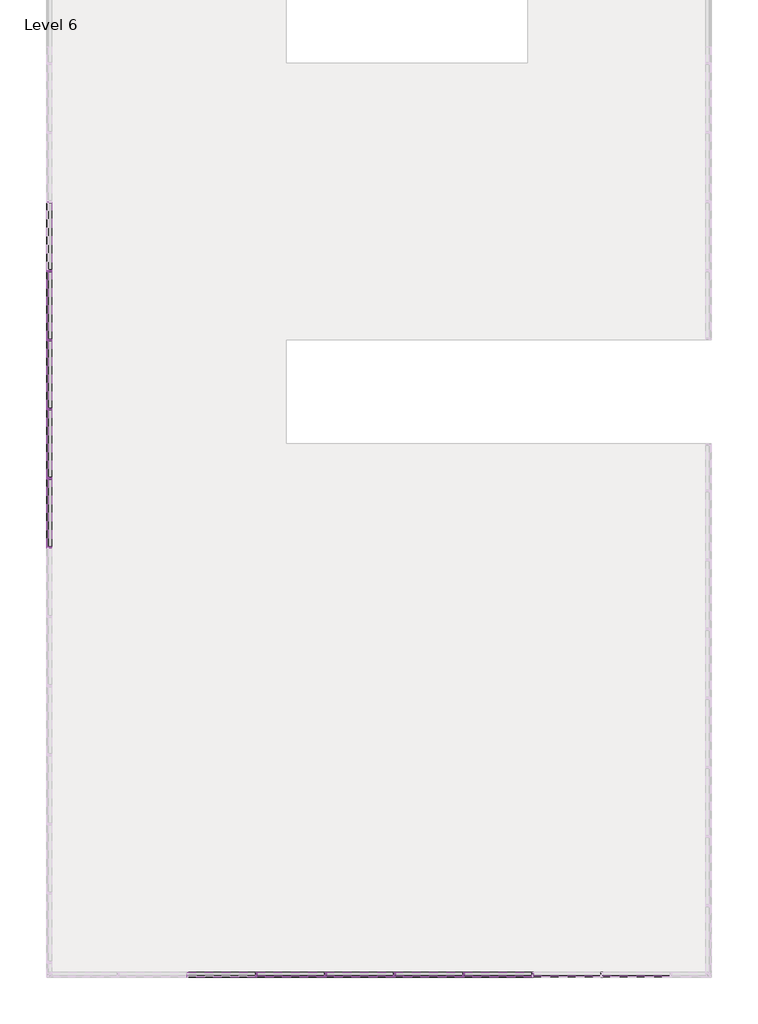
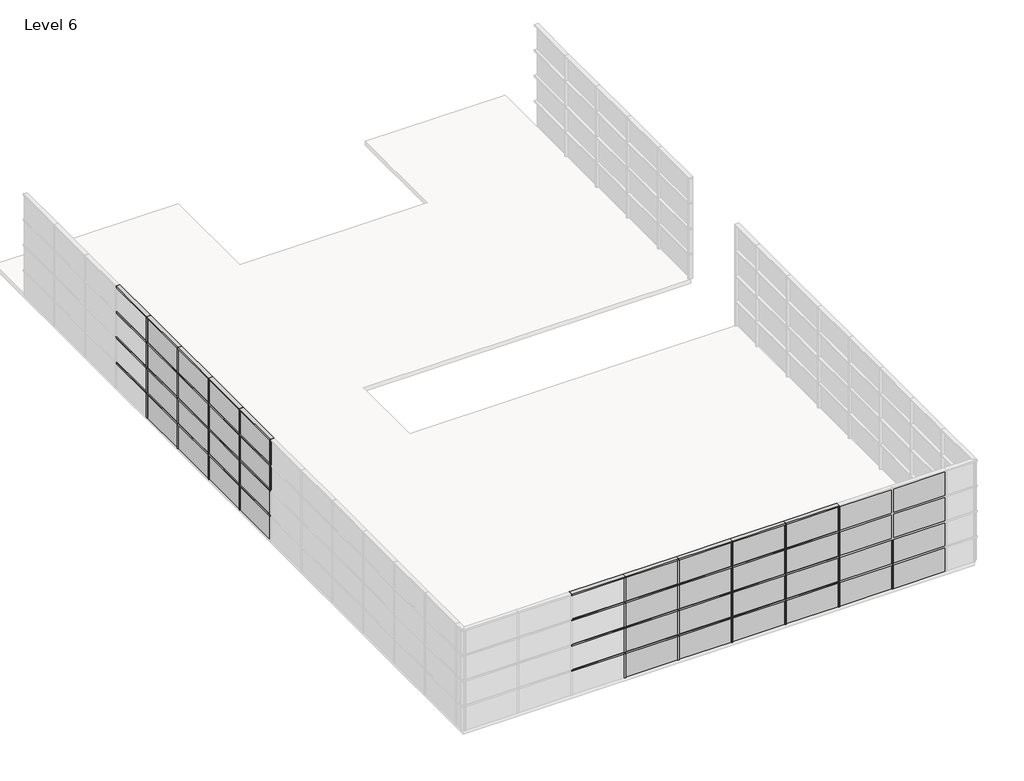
# One storey, part 2 of 5: 80 members, 40 plates.
"""IFC4 building model written with IfcOpenShell, lengths in millimetres."""

from ifc_helpers import new_model, si_unit, origin, place, context, project, spatial, transform, mapped, element, save
from components import rectangular_mullion_50_x_150mm_a053b0ca, rectangular_mullion_50_x_150mm_3a148f0f, system_panel_glazed_08de6f5f

model = new_model("IFC4")

# Units and contexts
model_context = context("Model", 3, world=origin())
ifc_project = project(units=[si_unit("LENGTHUNIT", "METRE", prefix="MILLI")], contexts=[model_context])

# Site, building, storey
site = spatial("IfcSite", under=ifc_project)
building = spatial("IfcBuilding", under=site)
storey = spatial("IfcBuildingStorey", under=building, Name="Level 6", Elevation=20000.0)

# Members
placement = place(None, origin())
rectangular_mullion_50_x_150mm_shape = rectangular_mullion_50_x_150mm_a053b0ca(model_context)
element("IfcMember", 1, ObjectType="Rectangular Mullion : 50 x 150mm", at=placement, inside=storey, context=model_context, shape_type="MappedRepresentation", body=[
    mapped(rectangular_mullion_50_x_150mm_shape, transform((412.826594, -21988.7417365, 20025.0), x_axis=(1.0, 0.0, 0.0), y_axis=(0.0, -1.0, 0.0), z_axis=(0.0, 0.0, -0.9999999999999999))),
])
element("IfcMember", 2, ObjectType="Rectangular Mullion : 50 x 150mm", at=placement, inside=storey, context=model_context, shape_type="MappedRepresentation", body=[
    mapped(rectangular_mullion_50_x_150mm_shape, transform((412.826594, -21988.7417365, 21025.0), x_axis=(1.0, 0.0, 0.0), y_axis=(0.0, -1.0, 0.0), z_axis=(0.0, 0.0, -0.9999999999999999))),
])
element("IfcMember", 3, ObjectType="Rectangular Mullion : 50 x 150mm", at=placement, inside=storey, context=model_context, shape_type="MappedRepresentation", body=[
    mapped(rectangular_mullion_50_x_150mm_shape, transform((412.826594, -21988.7417365, 22025.0), x_axis=(1.0, 0.0, 0.0), y_axis=(0.0, -1.0, 0.0), z_axis=(0.0, 0.0, -0.9999999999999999))),
])
element("IfcMember", 4, ObjectType="Rectangular Mullion : 50 x 150mm", at=placement, inside=storey, context=model_context, shape_type="MappedRepresentation", body=[
    mapped(rectangular_mullion_50_x_150mm_shape, transform((412.826594, -21988.7417365, 23025.0), x_axis=(1.0, 0.0, 0.0), y_axis=(0.0, -1.0, 0.0), z_axis=(0.0, 0.0, -0.9999999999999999))),
])
element("IfcMember", 5, ObjectType="Rectangular Mullion : 50 x 150mm", at=placement, inside=storey, context=model_context, shape_type="MappedRepresentation", body=[
    mapped(rectangular_mullion_50_x_150mm_shape, transform((2412.826594, -21988.7417365, 20025.0), x_axis=(1.0, 0.0, 0.0), y_axis=(0.0, -1.0, 0.0), z_axis=(0.0, 0.0, -0.9999999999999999))),
])
element("IfcMember", 6, ObjectType="Rectangular Mullion : 50 x 150mm", at=placement, inside=storey, context=model_context, shape_type="MappedRepresentation", body=[
    mapped(rectangular_mullion_50_x_150mm_shape, transform((2412.826594, -21988.7417365, 21025.0), x_axis=(1.0, 0.0, 0.0), y_axis=(0.0, -1.0, 0.0), z_axis=(0.0, 0.0, -0.9999999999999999))),
])
element("IfcMember", 7, ObjectType="Rectangular Mullion : 50 x 150mm", at=placement, inside=storey, context=model_context, shape_type="MappedRepresentation", body=[
    mapped(rectangular_mullion_50_x_150mm_shape, transform((2412.826594, -21988.7417365, 22025.0), x_axis=(1.0, 0.0, 0.0), y_axis=(0.0, -1.0, 0.0), z_axis=(0.0, 0.0, -0.9999999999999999))),
])
element("IfcMember", 8, ObjectType="Rectangular Mullion : 50 x 150mm", at=placement, inside=storey, context=model_context, shape_type="MappedRepresentation", body=[
    mapped(rectangular_mullion_50_x_150mm_shape, transform((2412.826594, -21988.7417365, 23025.0), x_axis=(1.0, 0.0, 0.0), y_axis=(0.0, -1.0, 0.0), z_axis=(0.0, 0.0, -0.9999999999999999))),
])
element("IfcMember", 9, ObjectType="Rectangular Mullion : 50 x 150mm", at=placement, inside=storey, context=model_context, shape_type="MappedRepresentation", body=[
    mapped(rectangular_mullion_50_x_150mm_shape, transform((4412.826594, -21988.7417365, 20025.0), x_axis=(1.0, 0.0, 0.0), y_axis=(0.0, -1.0, 0.0), z_axis=(0.0, 0.0, -0.9999999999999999))),
])
element("IfcMember", 10, ObjectType="Rectangular Mullion : 50 x 150mm", at=placement, inside=storey, context=model_context, shape_type="MappedRepresentation", body=[
    mapped(rectangular_mullion_50_x_150mm_shape, transform((4412.826594, -21988.7417365, 21025.0), x_axis=(1.0, 0.0, 0.0), y_axis=(0.0, -1.0, 0.0), z_axis=(0.0, 0.0, -0.9999999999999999))),
])
element("IfcMember", 11, ObjectType="Rectangular Mullion : 50 x 150mm", at=placement, inside=storey, context=model_context, shape_type="MappedRepresentation", body=[
    mapped(rectangular_mullion_50_x_150mm_shape, transform((4412.826594, -21988.7417365, 22025.0), x_axis=(1.0, 0.0, 0.0), y_axis=(0.0, -1.0, 0.0), z_axis=(0.0, 0.0, -0.9999999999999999))),
])
element("IfcMember", 12, ObjectType="Rectangular Mullion : 50 x 150mm", at=placement, inside=storey, context=model_context, shape_type="MappedRepresentation", body=[
    mapped(rectangular_mullion_50_x_150mm_shape, transform((4412.826594, -21988.7417365, 23025.0), x_axis=(1.0, 0.0, 0.0), y_axis=(0.0, -1.0, 0.0), z_axis=(0.0, 0.0, -0.9999999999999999))),
])
element("IfcMember", 13, ObjectType="Rectangular Mullion : 50 x 150mm", at=placement, inside=storey, context=model_context, shape_type="MappedRepresentation", body=[
    mapped(rectangular_mullion_50_x_150mm_shape, transform((6412.826594, -21988.7417365, 20025.0), x_axis=(1.0, 0.0, 0.0), y_axis=(0.0, -1.0, 0.0), z_axis=(0.0, 0.0, -0.9999999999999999))),
])
element("IfcMember", 14, ObjectType="Rectangular Mullion : 50 x 150mm", at=placement, inside=storey, context=model_context, shape_type="MappedRepresentation", body=[
    mapped(rectangular_mullion_50_x_150mm_shape, transform((6412.826594, -21988.7417365, 21025.0), x_axis=(1.0, 0.0, 0.0), y_axis=(0.0, -1.0, 0.0), z_axis=(0.0, 0.0, -0.9999999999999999))),
])
element("IfcMember", 15, ObjectType="Rectangular Mullion : 50 x 150mm", at=placement, inside=storey, context=model_context, shape_type="MappedRepresentation", body=[
    mapped(rectangular_mullion_50_x_150mm_shape, transform((6412.826594, -21988.7417365, 22025.0), x_axis=(1.0, 0.0, 0.0), y_axis=(0.0, -1.0, 0.0), z_axis=(0.0, 0.0, -0.9999999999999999))),
])
element("IfcMember", 16, ObjectType="Rectangular Mullion : 50 x 150mm", at=placement, inside=storey, context=model_context, shape_type="MappedRepresentation", body=[
    mapped(rectangular_mullion_50_x_150mm_shape, transform((6412.826594, -21988.7417365, 23025.0), x_axis=(1.0, 0.0, 0.0), y_axis=(0.0, -1.0, 0.0), z_axis=(0.0, 0.0, -0.9999999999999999))),
])
element("IfcMember", 17, ObjectType="Rectangular Mullion : 50 x 150mm", at=placement, inside=storey, context=model_context, shape_type="MappedRepresentation", body=[
    mapped(rectangular_mullion_50_x_150mm_shape, transform((8412.826594, -21988.7417365, 20025.0), x_axis=(1.0, 0.0, 0.0), y_axis=(0.0, -1.0, 0.0), z_axis=(0.0, 0.0, -0.9999999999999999))),
])
element("IfcMember", 18, ObjectType="Rectangular Mullion : 50 x 150mm", at=placement, inside=storey, context=model_context, shape_type="MappedRepresentation", body=[
    mapped(rectangular_mullion_50_x_150mm_shape, transform((8412.826594, -21988.7417365, 21025.0), x_axis=(1.0, 0.0, 0.0), y_axis=(0.0, -1.0, 0.0), z_axis=(0.0, 0.0, -0.9999999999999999))),
])
element("IfcMember", 19, ObjectType="Rectangular Mullion : 50 x 150mm", at=placement, inside=storey, context=model_context, shape_type="MappedRepresentation", body=[
    mapped(rectangular_mullion_50_x_150mm_shape, transform((8412.826594, -21988.7417365, 22025.0), x_axis=(1.0, 0.0, 0.0), y_axis=(0.0, -1.0, 0.0), z_axis=(0.0, 0.0, -0.9999999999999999))),
])
element("IfcMember", 20, ObjectType="Rectangular Mullion : 50 x 150mm", at=placement, inside=storey, context=model_context, shape_type="MappedRepresentation", body=[
    mapped(rectangular_mullion_50_x_150mm_shape, transform((8412.826594, -21988.7417365, 23025.0), x_axis=(1.0, 0.0, 0.0), y_axis=(0.0, -1.0, 0.0), z_axis=(0.0, 0.0, -0.9999999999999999))),
])
element("IfcMember", 21, ObjectType="Rectangular Mullion : 50 x 150mm", at=placement, inside=storey, context=model_context, shape_type="MappedRepresentation", body=[
    mapped(rectangular_mullion_50_x_150mm_shape, transform((10412.826594, -21988.7417365, 20025.0), x_axis=(1.0, 0.0, 0.0), y_axis=(0.0, -1.0, 0.0), z_axis=(0.0, 0.0, -0.9999999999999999))),
])
element("IfcMember", 22, ObjectType="Rectangular Mullion : 50 x 150mm", at=placement, inside=storey, context=model_context, shape_type="MappedRepresentation", body=[
    mapped(rectangular_mullion_50_x_150mm_shape, transform((10412.826594, -21988.7417365, 21025.0), x_axis=(1.0, 0.0, 0.0), y_axis=(0.0, -1.0, 0.0), z_axis=(0.0, 0.0, -0.9999999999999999))),
])
element("IfcMember", 23, ObjectType="Rectangular Mullion : 50 x 150mm", at=placement, inside=storey, context=model_context, shape_type="MappedRepresentation", body=[
    mapped(rectangular_mullion_50_x_150mm_shape, transform((-5587.173406, -1624.0160434, 20025.0), x_axis=(0.0, -1.0, 0.0), y_axis=(-1.0, 0.0, 0.0), z_axis=(0.0, 0.0, -0.9999999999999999))),
])
element("IfcMember", 24, ObjectType="Rectangular Mullion : 50 x 150mm", at=placement, inside=storey, context=model_context, shape_type="MappedRepresentation", body=[
    mapped(rectangular_mullion_50_x_150mm_shape, transform((-5587.173406, -1624.0160434, 21025.0), x_axis=(0.0, -1.0, 0.0), y_axis=(-1.0, 0.0, 0.0), z_axis=(0.0, 0.0, -0.9999999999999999))),
])
element("IfcMember", 25, ObjectType="Rectangular Mullion : 50 x 150mm", at=placement, inside=storey, context=model_context, shape_type="MappedRepresentation", body=[
    mapped(rectangular_mullion_50_x_150mm_shape, transform((-5587.173406, -1624.0160434, 22025.0), x_axis=(0.0, -1.0, 0.0), y_axis=(-1.0, 0.0, 0.0), z_axis=(0.0, 0.0, -0.9999999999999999))),
])
element("IfcMember", 26, ObjectType="Rectangular Mullion : 50 x 150mm", at=placement, inside=storey, context=model_context, shape_type="MappedRepresentation", body=[
    mapped(rectangular_mullion_50_x_150mm_shape, transform((-5587.173406, -1624.0160434, 23025.0), x_axis=(0.0, -1.0, 0.0), y_axis=(-1.0, 0.0, 0.0), z_axis=(0.0, 0.0, -0.9999999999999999))),
])
element("IfcMember", 27, ObjectType="Rectangular Mullion : 50 x 150mm", at=placement, inside=storey, context=model_context, shape_type="MappedRepresentation", body=[
    mapped(rectangular_mullion_50_x_150mm_shape, transform((-5587.173406, -3624.0160434, 20025.0), x_axis=(0.0, -1.0, 0.0), y_axis=(-1.0, 0.0, 0.0), z_axis=(0.0, 0.0, -0.9999999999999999))),
])
element("IfcMember", 28, ObjectType="Rectangular Mullion : 50 x 150mm", at=placement, inside=storey, context=model_context, shape_type="MappedRepresentation", body=[
    mapped(rectangular_mullion_50_x_150mm_shape, transform((-5587.173406, -3624.0160434, 21025.0), x_axis=(0.0, -1.0, 0.0), y_axis=(-1.0, 0.0, 0.0), z_axis=(0.0, 0.0, -0.9999999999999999))),
])
element("IfcMember", 29, ObjectType="Rectangular Mullion : 50 x 150mm", at=placement, inside=storey, context=model_context, shape_type="MappedRepresentation", body=[
    mapped(rectangular_mullion_50_x_150mm_shape, transform((-5587.173406, -3624.0160434, 22025.0), x_axis=(0.0, -1.0, 0.0), y_axis=(-1.0, 0.0, 0.0), z_axis=(0.0, 0.0, -0.9999999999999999))),
])
element("IfcMember", 30, ObjectType="Rectangular Mullion : 50 x 150mm", at=placement, inside=storey, context=model_context, shape_type="MappedRepresentation", body=[
    mapped(rectangular_mullion_50_x_150mm_shape, transform((-5587.173406, -3624.0160434, 23025.0), x_axis=(0.0, -1.0, 0.0), y_axis=(-1.0, 0.0, 0.0), z_axis=(0.0, 0.0, -0.9999999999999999))),
])
element("IfcMember", 31, ObjectType="Rectangular Mullion : 50 x 150mm", at=placement, inside=storey, context=model_context, shape_type="MappedRepresentation", body=[
    mapped(rectangular_mullion_50_x_150mm_shape, transform((-5587.173406, -5624.0160434, 20025.0), x_axis=(0.0, -1.0, 0.0), y_axis=(-1.0, 0.0, 0.0), z_axis=(0.0, 0.0, -0.9999999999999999))),
])
element("IfcMember", 32, ObjectType="Rectangular Mullion : 50 x 150mm", at=placement, inside=storey, context=model_context, shape_type="MappedRepresentation", body=[
    mapped(rectangular_mullion_50_x_150mm_shape, transform((-5587.173406, -5624.0160434, 21025.0), x_axis=(0.0, -1.0, 0.0), y_axis=(-1.0, 0.0, 0.0), z_axis=(0.0, 0.0, -0.9999999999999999))),
])
element("IfcMember", 33, ObjectType="Rectangular Mullion : 50 x 150mm", at=placement, inside=storey, context=model_context, shape_type="MappedRepresentation", body=[
    mapped(rectangular_mullion_50_x_150mm_shape, transform((-5587.173406, -5624.0160434, 22025.0), x_axis=(0.0, -1.0, 0.0), y_axis=(-1.0, 0.0, 0.0), z_axis=(0.0, 0.0, -0.9999999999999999))),
])
element("IfcMember", 34, ObjectType="Rectangular Mullion : 50 x 150mm", at=placement, inside=storey, context=model_context, shape_type="MappedRepresentation", body=[
    mapped(rectangular_mullion_50_x_150mm_shape, transform((-5587.173406, -5624.0160434, 23025.0), x_axis=(0.0, -1.0, 0.0), y_axis=(-1.0, 0.0, 0.0), z_axis=(0.0, 0.0, -0.9999999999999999))),
])
element("IfcMember", 35, ObjectType="Rectangular Mullion : 50 x 150mm", at=placement, inside=storey, context=model_context, shape_type="MappedRepresentation", body=[
    mapped(rectangular_mullion_50_x_150mm_shape, transform((-5587.173406, -7624.0160434, 20025.0), x_axis=(0.0, -1.0, 0.0), y_axis=(-1.0, 0.0, 0.0), z_axis=(0.0, 0.0, -0.9999999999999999))),
])
element("IfcMember", 36, ObjectType="Rectangular Mullion : 50 x 150mm", at=placement, inside=storey, context=model_context, shape_type="MappedRepresentation", body=[
    mapped(rectangular_mullion_50_x_150mm_shape, transform((-5587.173406, -7624.0160434, 21025.0), x_axis=(0.0, -1.0, 0.0), y_axis=(-1.0, 0.0, 0.0), z_axis=(0.0, 0.0, -0.9999999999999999))),
])
element("IfcMember", 37, ObjectType="Rectangular Mullion : 50 x 150mm", at=placement, inside=storey, context=model_context, shape_type="MappedRepresentation", body=[
    mapped(rectangular_mullion_50_x_150mm_shape, transform((-5587.173406, -7624.0160434, 22025.0), x_axis=(0.0, -1.0, 0.0), y_axis=(-1.0, 0.0, 0.0), z_axis=(0.0, 0.0, -0.9999999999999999))),
])
element("IfcMember", 38, ObjectType="Rectangular Mullion : 50 x 150mm", at=placement, inside=storey, context=model_context, shape_type="MappedRepresentation", body=[
    mapped(rectangular_mullion_50_x_150mm_shape, transform((-5587.173406, -7624.0160434, 23025.0), x_axis=(0.0, -1.0, 0.0), y_axis=(-1.0, 0.0, 0.0), z_axis=(0.0, 0.0, -0.9999999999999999))),
])
element("IfcMember", 39, ObjectType="Rectangular Mullion : 50 x 150mm", at=placement, inside=storey, context=model_context, shape_type="MappedRepresentation", body=[
    mapped(rectangular_mullion_50_x_150mm_shape, transform((-5587.173406, -9624.0160434, 22025.0), x_axis=(0.0, -1.0, 0.0), y_axis=(-1.0, 0.0, 0.0), z_axis=(0.0, 0.0, -0.9999999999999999))),
])
element("IfcMember", 40, ObjectType="Rectangular Mullion : 50 x 150mm", at=placement, inside=storey, context=model_context, shape_type="MappedRepresentation", body=[
    mapped(rectangular_mullion_50_x_150mm_shape, transform((-5587.173406, -9624.0160434, 23025.0), x_axis=(0.0, -1.0, 0.0), y_axis=(-1.0, 0.0, 0.0), z_axis=(0.0, 0.0, -0.9999999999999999))),
])
rectangular_mullion_50_x_150mm_2_shape = rectangular_mullion_50_x_150mm_3a148f0f(model_context)
element("IfcMember", 41, ObjectType="Rectangular Mullion : 50 x 150mm", at=placement, inside=storey, context=model_context, shape_type="MappedRepresentation", body=[
    mapped(rectangular_mullion_50_x_150mm_2_shape, transform((412.826594, -21988.7417365, 21000.0), x_axis=(0.0, 0.0, 1.0), y_axis=(0.0, -1.0, 0.0), z_axis=(1.0, 0.0, 0.0))),
])
element("IfcMember", 42, ObjectType="Rectangular Mullion : 50 x 150mm", at=placement, inside=storey, context=model_context, shape_type="MappedRepresentation", body=[
    mapped(rectangular_mullion_50_x_150mm_2_shape, transform((2412.826594, -21988.7417365, 21000.0), x_axis=(0.0, 0.0, 1.0), y_axis=(0.0, -1.0, 0.0), z_axis=(1.0, 0.0, 0.0))),
])
element("IfcMember", 43, ObjectType="Rectangular Mullion : 50 x 150mm", at=placement, inside=storey, context=model_context, shape_type="MappedRepresentation", body=[
    mapped(rectangular_mullion_50_x_150mm_2_shape, transform((4412.826594, -21988.7417365, 21000.0), x_axis=(0.0, 0.0, 1.0), y_axis=(0.0, -1.0, 0.0), z_axis=(1.0, 0.0, 0.0))),
])
element("IfcMember", 44, ObjectType="Rectangular Mullion : 50 x 150mm", at=placement, inside=storey, context=model_context, shape_type="MappedRepresentation", body=[
    mapped(rectangular_mullion_50_x_150mm_2_shape, transform((6412.826594, -21988.7417365, 21000.0), x_axis=(0.0, 0.0, 1.0), y_axis=(0.0, -1.0, 0.0), z_axis=(1.0, 0.0, 0.0))),
])
element("IfcMember", 45, ObjectType="Rectangular Mullion : 50 x 150mm", at=placement, inside=storey, context=model_context, shape_type="MappedRepresentation", body=[
    mapped(rectangular_mullion_50_x_150mm_2_shape, transform((8412.826594, -21988.7417365, 21000.0), x_axis=(0.0, 0.0, 1.0), y_axis=(0.0, -1.0, 0.0), z_axis=(1.0, 0.0, 0.0))),
])
element("IfcMember", 46, ObjectType="Rectangular Mullion : 50 x 150mm", at=placement, inside=storey, context=model_context, shape_type="MappedRepresentation", body=[
    mapped(rectangular_mullion_50_x_150mm_2_shape, transform((412.826594, -21988.7417365, 22000.0), x_axis=(0.0, 0.0, 1.0), y_axis=(0.0, -1.0, 0.0), z_axis=(1.0, 0.0, 0.0))),
])
element("IfcMember", 47, ObjectType="Rectangular Mullion : 50 x 150mm", at=placement, inside=storey, context=model_context, shape_type="MappedRepresentation", body=[
    mapped(rectangular_mullion_50_x_150mm_2_shape, transform((2412.826594, -21988.7417365, 22000.0), x_axis=(0.0, 0.0, 1.0), y_axis=(0.0, -1.0, 0.0), z_axis=(1.0, 0.0, 0.0))),
])
element("IfcMember", 48, ObjectType="Rectangular Mullion : 50 x 150mm", at=placement, inside=storey, context=model_context, shape_type="MappedRepresentation", body=[
    mapped(rectangular_mullion_50_x_150mm_2_shape, transform((4412.826594, -21988.7417365, 22000.0), x_axis=(0.0, 0.0, 1.0), y_axis=(0.0, -1.0, 0.0), z_axis=(1.0, 0.0, 0.0))),
])
element("IfcMember", 49, ObjectType="Rectangular Mullion : 50 x 150mm", at=placement, inside=storey, context=model_context, shape_type="MappedRepresentation", body=[
    mapped(rectangular_mullion_50_x_150mm_2_shape, transform((6412.826594, -21988.7417365, 22000.0), x_axis=(0.0, 0.0, 1.0), y_axis=(0.0, -1.0, 0.0), z_axis=(1.0, 0.0, 0.0))),
])
element("IfcMember", 50, ObjectType="Rectangular Mullion : 50 x 150mm", at=placement, inside=storey, context=model_context, shape_type="MappedRepresentation", body=[
    mapped(rectangular_mullion_50_x_150mm_2_shape, transform((8412.826594, -21988.7417365, 22000.0), x_axis=(0.0, 0.0, 1.0), y_axis=(0.0, -1.0, 0.0), z_axis=(1.0, 0.0, 0.0))),
])
element("IfcMember", 51, ObjectType="Rectangular Mullion : 50 x 150mm", at=placement, inside=storey, context=model_context, shape_type="MappedRepresentation", body=[
    mapped(rectangular_mullion_50_x_150mm_2_shape, transform((412.826594, -21988.7417365, 23000.0), x_axis=(0.0, 0.0, 1.0), y_axis=(0.0, -1.0, 0.0), z_axis=(1.0, 0.0, 0.0))),
])
element("IfcMember", 52, ObjectType="Rectangular Mullion : 50 x 150mm", at=placement, inside=storey, context=model_context, shape_type="MappedRepresentation", body=[
    mapped(rectangular_mullion_50_x_150mm_2_shape, transform((2412.826594, -21988.7417365, 23000.0), x_axis=(0.0, 0.0, 1.0), y_axis=(0.0, -1.0, 0.0), z_axis=(1.0, 0.0, 0.0))),
])
element("IfcMember", 53, ObjectType="Rectangular Mullion : 50 x 150mm", at=placement, inside=storey, context=model_context, shape_type="MappedRepresentation", body=[
    mapped(rectangular_mullion_50_x_150mm_2_shape, transform((4412.826594, -21988.7417365, 23000.0), x_axis=(0.0, 0.0, 1.0), y_axis=(0.0, -1.0, 0.0), z_axis=(1.0, 0.0, 0.0))),
])
element("IfcMember", 54, ObjectType="Rectangular Mullion : 50 x 150mm", at=placement, inside=storey, context=model_context, shape_type="MappedRepresentation", body=[
    mapped(rectangular_mullion_50_x_150mm_2_shape, transform((6412.826594, -21988.7417365, 23000.0), x_axis=(0.0, 0.0, 1.0), y_axis=(0.0, -1.0, 0.0), z_axis=(1.0, 0.0, 0.0))),
])
element("IfcMember", 55, ObjectType="Rectangular Mullion : 50 x 150mm", at=placement, inside=storey, context=model_context, shape_type="MappedRepresentation", body=[
    mapped(rectangular_mullion_50_x_150mm_2_shape, transform((8412.826594, -21988.7417365, 23000.0), x_axis=(0.0, 0.0, 1.0), y_axis=(0.0, -1.0, 0.0), z_axis=(1.0, 0.0, 0.0))),
])
element("IfcMember", 56, ObjectType="Rectangular Mullion : 50 x 150mm", at=placement, inside=storey, context=model_context, shape_type="MappedRepresentation", body=[
    mapped(rectangular_mullion_50_x_150mm_2_shape, transform((412.826594, -21988.7417365, 24000.0), x_axis=(0.0, 0.0, 1.0), y_axis=(0.0, -1.0, 0.0), z_axis=(1.0, 0.0, 0.0))),
])
element("IfcMember", 57, ObjectType="Rectangular Mullion : 50 x 150mm", at=placement, inside=storey, context=model_context, shape_type="MappedRepresentation", body=[
    mapped(rectangular_mullion_50_x_150mm_2_shape, transform((2412.826594, -21988.7417365, 24000.0), x_axis=(0.0, 0.0, 1.0), y_axis=(0.0, -1.0, 0.0), z_axis=(1.0, 0.0, 0.0))),
])
element("IfcMember", 58, ObjectType="Rectangular Mullion : 50 x 150mm", at=placement, inside=storey, context=model_context, shape_type="MappedRepresentation", body=[
    mapped(rectangular_mullion_50_x_150mm_2_shape, transform((4412.826594, -21988.7417365, 24000.0), x_axis=(0.0, 0.0, 1.0), y_axis=(0.0, -1.0, 0.0), z_axis=(1.0, 0.0, 0.0))),
])
element("IfcMember", 59, ObjectType="Rectangular Mullion : 50 x 150mm", at=placement, inside=storey, context=model_context, shape_type="MappedRepresentation", body=[
    mapped(rectangular_mullion_50_x_150mm_2_shape, transform((6412.826594, -21988.7417365, 24000.0), x_axis=(0.0, 0.0, 1.0), y_axis=(0.0, -1.0, 0.0), z_axis=(1.0, 0.0, 0.0))),
])
element("IfcMember", 60, ObjectType="Rectangular Mullion : 50 x 150mm", at=placement, inside=storey, context=model_context, shape_type="MappedRepresentation", body=[
    mapped(rectangular_mullion_50_x_150mm_2_shape, transform((8412.826594, -21988.7417365, 24000.0), x_axis=(0.0, 0.0, 1.0), y_axis=(0.0, -1.0, 0.0), z_axis=(1.0, 0.0, 0.0))),
])
element("IfcMember", 61, ObjectType="Rectangular Mullion : 50 x 150mm", at=placement, inside=storey, context=model_context, shape_type="MappedRepresentation", body=[
    mapped(rectangular_mullion_50_x_150mm_2_shape, transform((-5587.173406, -1624.0160434, 21000.0), x_axis=(0.0, 0.0, 1.0), y_axis=(-1.0, 0.0, 0.0), z_axis=(0.0, -1.0, 0.0))),
])
element("IfcMember", 62, ObjectType="Rectangular Mullion : 50 x 150mm", at=placement, inside=storey, context=model_context, shape_type="MappedRepresentation", body=[
    mapped(rectangular_mullion_50_x_150mm_2_shape, transform((-5587.173406, -3624.0160434, 21000.0), x_axis=(0.0, 0.0, 1.0), y_axis=(-1.0, 0.0, 0.0), z_axis=(0.0, -0.9999999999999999, 0.0))),
])
element("IfcMember", 63, ObjectType="Rectangular Mullion : 50 x 150mm", at=placement, inside=storey, context=model_context, shape_type="MappedRepresentation", body=[
    mapped(rectangular_mullion_50_x_150mm_2_shape, transform((-5587.173406, -5624.0160434, 21000.0), x_axis=(0.0, 0.0, 1.0), y_axis=(-1.0, 0.0, 0.0), z_axis=(0.0, -1.0, 0.0))),
])
element("IfcMember", 64, ObjectType="Rectangular Mullion : 50 x 150mm", at=placement, inside=storey, context=model_context, shape_type="MappedRepresentation", body=[
    mapped(rectangular_mullion_50_x_150mm_2_shape, transform((-5587.173406, -7624.0160434, 21000.0), x_axis=(0.0, 0.0, 1.0), y_axis=(-1.0, 0.0, 0.0), z_axis=(0.0, -1.0, 0.0))),
])
element("IfcMember", 65, ObjectType="Rectangular Mullion : 50 x 150mm", at=placement, inside=storey, context=model_context, shape_type="MappedRepresentation", body=[
    mapped(rectangular_mullion_50_x_150mm_2_shape, transform((-5587.173406, -9624.0160434, 21000.0), x_axis=(0.0, 0.0, 1.0), y_axis=(-1.0, 0.0, 0.0), z_axis=(0.0, -1.0, 0.0))),
])
element("IfcMember", 66, ObjectType="Rectangular Mullion : 50 x 150mm", at=placement, inside=storey, context=model_context, shape_type="MappedRepresentation", body=[
    mapped(rectangular_mullion_50_x_150mm_2_shape, transform((-5587.173406, -1624.0160434, 22000.0), x_axis=(0.0, 0.0, 1.0), y_axis=(-1.0, 0.0, 0.0), z_axis=(0.0, -1.0, 0.0))),
])
element("IfcMember", 67, ObjectType="Rectangular Mullion : 50 x 150mm", at=placement, inside=storey, context=model_context, shape_type="MappedRepresentation", body=[
    mapped(rectangular_mullion_50_x_150mm_2_shape, transform((-5587.173406, -3624.0160434, 22000.0), x_axis=(0.0, 0.0, 1.0), y_axis=(-1.0, 0.0, 0.0), z_axis=(0.0, -0.9999999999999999, 0.0))),
])
element("IfcMember", 68, ObjectType="Rectangular Mullion : 50 x 150mm", at=placement, inside=storey, context=model_context, shape_type="MappedRepresentation", body=[
    mapped(rectangular_mullion_50_x_150mm_2_shape, transform((-5587.173406, -5624.0160434, 22000.0), x_axis=(0.0, 0.0, 1.0), y_axis=(-1.0, 0.0, 0.0), z_axis=(0.0, -1.0, 0.0))),
])
element("IfcMember", 69, ObjectType="Rectangular Mullion : 50 x 150mm", at=placement, inside=storey, context=model_context, shape_type="MappedRepresentation", body=[
    mapped(rectangular_mullion_50_x_150mm_2_shape, transform((-5587.173406, -7624.0160434, 22000.0), x_axis=(0.0, 0.0, 1.0), y_axis=(-1.0, 0.0, 0.0), z_axis=(0.0, -1.0, 0.0))),
])
element("IfcMember", 70, ObjectType="Rectangular Mullion : 50 x 150mm", at=placement, inside=storey, context=model_context, shape_type="MappedRepresentation", body=[
    mapped(rectangular_mullion_50_x_150mm_2_shape, transform((-5587.173406, -9624.0160434, 22000.0), x_axis=(0.0, 0.0, 1.0), y_axis=(-1.0, 0.0, 0.0), z_axis=(0.0, -1.0, 0.0))),
])
element("IfcMember", 71, ObjectType="Rectangular Mullion : 50 x 150mm", at=placement, inside=storey, context=model_context, shape_type="MappedRepresentation", body=[
    mapped(rectangular_mullion_50_x_150mm_2_shape, transform((-5587.173406, -1624.0160434, 23000.0), x_axis=(0.0, 0.0, 1.0), y_axis=(-1.0, 0.0, 0.0), z_axis=(0.0, -1.0, 0.0))),
])
element("IfcMember", 72, ObjectType="Rectangular Mullion : 50 x 150mm", at=placement, inside=storey, context=model_context, shape_type="MappedRepresentation", body=[
    mapped(rectangular_mullion_50_x_150mm_2_shape, transform((-5587.173406, -3624.0160434, 23000.0), x_axis=(0.0, 0.0, 1.0), y_axis=(-1.0, 0.0, 0.0), z_axis=(0.0, -0.9999999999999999, 0.0))),
])
element("IfcMember", 73, ObjectType="Rectangular Mullion : 50 x 150mm", at=placement, inside=storey, context=model_context, shape_type="MappedRepresentation", body=[
    mapped(rectangular_mullion_50_x_150mm_2_shape, transform((-5587.173406, -5624.0160434, 23000.0), x_axis=(0.0, 0.0, 1.0), y_axis=(-1.0, 0.0, 0.0), z_axis=(0.0, -1.0, 0.0))),
])
element("IfcMember", 74, ObjectType="Rectangular Mullion : 50 x 150mm", at=placement, inside=storey, context=model_context, shape_type="MappedRepresentation", body=[
    mapped(rectangular_mullion_50_x_150mm_2_shape, transform((-5587.173406, -7624.0160434, 23000.0), x_axis=(0.0, 0.0, 1.0), y_axis=(-1.0, 0.0, 0.0), z_axis=(0.0, -1.0, 0.0))),
])
element("IfcMember", 75, ObjectType="Rectangular Mullion : 50 x 150mm", at=placement, inside=storey, context=model_context, shape_type="MappedRepresentation", body=[
    mapped(rectangular_mullion_50_x_150mm_2_shape, transform((-5587.173406, -9624.0160434, 23000.0), x_axis=(0.0, 0.0, 1.0), y_axis=(-1.0, 0.0, 0.0), z_axis=(0.0, -1.0, 0.0))),
])
element("IfcMember", 76, ObjectType="Rectangular Mullion : 50 x 150mm", at=placement, inside=storey, context=model_context, shape_type="MappedRepresentation", body=[
    mapped(rectangular_mullion_50_x_150mm_2_shape, transform((-5587.173406, -1624.0160434, 24000.0), x_axis=(0.0, 0.0, 1.0), y_axis=(-1.0, 0.0, 0.0), z_axis=(0.0, -1.0, 0.0))),
])
element("IfcMember", 77, ObjectType="Rectangular Mullion : 50 x 150mm", at=placement, inside=storey, context=model_context, shape_type="MappedRepresentation", body=[
    mapped(rectangular_mullion_50_x_150mm_2_shape, transform((-5587.173406, -3624.0160434, 24000.0), x_axis=(0.0, 0.0, 1.0), y_axis=(-1.0, 0.0, 0.0), z_axis=(0.0, -1.0, 0.0))),
])
element("IfcMember", 78, ObjectType="Rectangular Mullion : 50 x 150mm", at=placement, inside=storey, context=model_context, shape_type="MappedRepresentation", body=[
    mapped(rectangular_mullion_50_x_150mm_2_shape, transform((-5587.173406, -5624.0160434, 24000.0), x_axis=(0.0, 0.0, 1.0), y_axis=(-1.0, 0.0, 0.0), z_axis=(0.0, -1.0, 0.0))),
])
element("IfcMember", 79, ObjectType="Rectangular Mullion : 50 x 150mm", at=placement, inside=storey, context=model_context, shape_type="MappedRepresentation", body=[
    mapped(rectangular_mullion_50_x_150mm_2_shape, transform((-5587.173406, -7624.0160434, 24000.0), x_axis=(0.0, 0.0, 1.0), y_axis=(-1.0, 0.0, 0.0), z_axis=(0.0, -1.0, 0.0))),
])
element("IfcMember", 80, ObjectType="Rectangular Mullion : 50 x 150mm", at=placement, inside=storey, context=model_context, shape_type="MappedRepresentation", body=[
    mapped(rectangular_mullion_50_x_150mm_2_shape, transform((-5587.173406, -9624.0160434, 24000.0), x_axis=(0.0, 0.0, 1.0), y_axis=(-1.0, 0.0, 0.0), z_axis=(0.0, -1.0, 0.0))),
])

# Plates
system_panel_glazed_shape = system_panel_glazed_08de6f5f(model_context)
element("IfcPlate", 81, ObjectType="System Panel : Glazed", at=placement, inside=storey, context=model_context, shape_type="MappedRepresentation", body=[
    mapped(system_panel_glazed_shape, transform((-5587.173406, -1649.0160434, 20500.0), x_axis=(0.0, 0.0, 1.0), y_axis=(-1.0, 0.0, 0.0), z_axis=(0.0, -1.0, 0.0))),
])
element("IfcPlate", 82, ObjectType="System Panel : Glazed", at=placement, inside=storey, context=model_context, shape_type="MappedRepresentation", body=[
    mapped(system_panel_glazed_shape, transform((-5587.173406, -3649.0160434, 20500.0), x_axis=(0.0, 0.0, 1.0), y_axis=(-1.0, 0.0, 0.0), z_axis=(0.0, -1.0, 0.0))),
])
element("IfcPlate", 83, ObjectType="System Panel : Glazed", at=placement, inside=storey, context=model_context, shape_type="MappedRepresentation", body=[
    mapped(system_panel_glazed_shape, transform((-5587.173406, -5649.0160434, 20500.0), x_axis=(0.0, 0.0, 1.0), y_axis=(-1.0, 0.0, 0.0), z_axis=(0.0, -1.0, 0.0))),
])
element("IfcPlate", 84, ObjectType="System Panel : Glazed", at=placement, inside=storey, context=model_context, shape_type="MappedRepresentation", body=[
    mapped(system_panel_glazed_shape, transform((-5587.173406, -7649.0160434, 20500.0), x_axis=(0.0, 0.0, 1.0), y_axis=(-1.0, 0.0, 0.0), z_axis=(0.0, -1.0, 0.0))),
])
element("IfcPlate", 85, ObjectType="System Panel : Glazed", at=placement, inside=storey, context=model_context, shape_type="MappedRepresentation", body=[
    mapped(system_panel_glazed_shape, transform((-5587.173406, -1649.0160434, 21500.0), x_axis=(0.0, 0.0, 1.0), y_axis=(-1.0, 0.0, 0.0), z_axis=(0.0, -1.0, 0.0))),
])
element("IfcPlate", 86, ObjectType="System Panel : Glazed", at=placement, inside=storey, context=model_context, shape_type="MappedRepresentation", body=[
    mapped(system_panel_glazed_shape, transform((-5587.173406, -3649.0160434, 21500.0), x_axis=(0.0, 0.0, 1.0), y_axis=(-1.0, 0.0, 0.0), z_axis=(0.0, -1.0, 0.0))),
])
element("IfcPlate", 87, ObjectType="System Panel : Glazed", at=placement, inside=storey, context=model_context, shape_type="MappedRepresentation", body=[
    mapped(system_panel_glazed_shape, transform((-5587.173406, -5649.0160434, 21500.0), x_axis=(0.0, 0.0, 1.0), y_axis=(-1.0, 0.0, 0.0), z_axis=(0.0, -1.0, 0.0))),
])
element("IfcPlate", 88, ObjectType="System Panel : Glazed", at=placement, inside=storey, context=model_context, shape_type="MappedRepresentation", body=[
    mapped(system_panel_glazed_shape, transform((-5587.173406, -7649.0160434, 21500.0), x_axis=(0.0, 0.0, 1.0), y_axis=(-1.0, 0.0, 0.0), z_axis=(0.0, -1.0, 0.0))),
])
element("IfcPlate", 89, ObjectType="System Panel : Glazed", at=placement, inside=storey, context=model_context, shape_type="MappedRepresentation", body=[
    mapped(system_panel_glazed_shape, transform((437.826594, -21988.7417365, 20500.0), x_axis=(0.0, 0.0, 1.0), y_axis=(0.0, -1.0, 0.0), z_axis=(1.0, 0.0, 0.0))),
])
element("IfcPlate", 90, ObjectType="System Panel : Glazed", at=placement, inside=storey, context=model_context, shape_type="MappedRepresentation", body=[
    mapped(system_panel_glazed_shape, transform((2437.826594, -21988.7417365, 20500.0), x_axis=(0.0, 0.0, 1.0), y_axis=(0.0, -1.0, 0.0), z_axis=(1.0, 0.0, 0.0))),
])
element("IfcPlate", 91, ObjectType="System Panel : Glazed", at=placement, inside=storey, context=model_context, shape_type="MappedRepresentation", body=[
    mapped(system_panel_glazed_shape, transform((4437.826594, -21988.7417365, 20500.0), x_axis=(0.0, 0.0, 1.0), y_axis=(0.0, -1.0, 0.0), z_axis=(1.0, 0.0, 0.0))),
])
element("IfcPlate", 92, ObjectType="System Panel : Glazed", at=placement, inside=storey, context=model_context, shape_type="MappedRepresentation", body=[
    mapped(system_panel_glazed_shape, transform((6437.826594, -21988.7417365, 20500.0), x_axis=(0.0, 0.0, 1.0), y_axis=(0.0, -1.0, 0.0), z_axis=(1.0, 0.0, 0.0))),
])
element("IfcPlate", 93, ObjectType="System Panel : Glazed", at=placement, inside=storey, context=model_context, shape_type="MappedRepresentation", body=[
    mapped(system_panel_glazed_shape, transform((8437.826594, -21988.7417365, 20500.0), x_axis=(0.0, 0.0, 1.0), y_axis=(0.0, -1.0, 0.0), z_axis=(1.0, 0.0, 0.0))),
])
element("IfcPlate", 94, ObjectType="System Panel : Glazed", at=placement, inside=storey, context=model_context, shape_type="MappedRepresentation", body=[
    mapped(system_panel_glazed_shape, transform((10437.826594, -21988.7417365, 20500.0), x_axis=(0.0, 0.0, 1.0), y_axis=(0.0, -1.0, 0.0), z_axis=(1.0, 0.0, 0.0))),
])
element("IfcPlate", 95, ObjectType="System Panel : Glazed", at=placement, inside=storey, context=model_context, shape_type="MappedRepresentation", body=[
    mapped(system_panel_glazed_shape, transform((437.826594, -21988.7417365, 21500.0), x_axis=(0.0, 0.0, 1.0), y_axis=(0.0, -1.0, 0.0), z_axis=(1.0, 0.0, 0.0))),
])
element("IfcPlate", 96, ObjectType="System Panel : Glazed", at=placement, inside=storey, context=model_context, shape_type="MappedRepresentation", body=[
    mapped(system_panel_glazed_shape, transform((2437.826594, -21988.7417365, 21500.0), x_axis=(0.0, 0.0, 1.0), y_axis=(0.0, -1.0, 0.0), z_axis=(1.0, 0.0, 0.0))),
])
element("IfcPlate", 97, ObjectType="System Panel : Glazed", at=placement, inside=storey, context=model_context, shape_type="MappedRepresentation", body=[
    mapped(system_panel_glazed_shape, transform((4437.826594, -21988.7417365, 21500.0), x_axis=(0.0, 0.0, 1.0), y_axis=(0.0, -1.0, 0.0), z_axis=(1.0, 0.0, 0.0))),
])
element("IfcPlate", 98, ObjectType="System Panel : Glazed", at=placement, inside=storey, context=model_context, shape_type="MappedRepresentation", body=[
    mapped(system_panel_glazed_shape, transform((6437.826594, -21988.7417365, 21500.0), x_axis=(0.0, 0.0, 1.0), y_axis=(0.0, -1.0, 0.0), z_axis=(1.0, 0.0, 0.0))),
])
element("IfcPlate", 99, ObjectType="System Panel : Glazed", at=placement, inside=storey, context=model_context, shape_type="MappedRepresentation", body=[
    mapped(system_panel_glazed_shape, transform((8437.826594, -21988.7417365, 21500.0), x_axis=(0.0, 0.0, 1.0), y_axis=(0.0, -1.0, 0.0), z_axis=(1.0, 0.0, 0.0))),
])
element("IfcPlate", 100, ObjectType="System Panel : Glazed", at=placement, inside=storey, context=model_context, shape_type="MappedRepresentation", body=[
    mapped(system_panel_glazed_shape, transform((10437.826594, -21988.7417365, 21500.0), x_axis=(0.0, 0.0, 1.0), y_axis=(0.0, -1.0, 0.0), z_axis=(1.0, 0.0, 0.0))),
])
element("IfcPlate", 101, ObjectType="System Panel : Glazed", at=placement, inside=storey, context=model_context, shape_type="MappedRepresentation", body=[
    mapped(system_panel_glazed_shape, transform((-5587.173406, -1649.0160434, 22500.0), x_axis=(0.0, 0.0, 1.0), y_axis=(-1.0, 0.0, 0.0), z_axis=(0.0, -1.0, 0.0))),
])
element("IfcPlate", 102, ObjectType="System Panel : Glazed", at=placement, inside=storey, context=model_context, shape_type="MappedRepresentation", body=[
    mapped(system_panel_glazed_shape, transform((-5587.173406, -3649.0160434, 22500.0), x_axis=(0.0, 0.0, 1.0), y_axis=(-1.0, 0.0, 0.0), z_axis=(0.0, -1.0, 0.0))),
])
element("IfcPlate", 103, ObjectType="System Panel : Glazed", at=placement, inside=storey, context=model_context, shape_type="MappedRepresentation", body=[
    mapped(system_panel_glazed_shape, transform((-5587.173406, -5649.0160434, 22500.0), x_axis=(0.0, 0.0, 1.0), y_axis=(-1.0, 0.0, 0.0), z_axis=(0.0, -1.0, 0.0))),
])
element("IfcPlate", 104, ObjectType="System Panel : Glazed", at=placement, inside=storey, context=model_context, shape_type="MappedRepresentation", body=[
    mapped(system_panel_glazed_shape, transform((-5587.173406, -7649.0160434, 22500.0), x_axis=(0.0, 0.0, 1.0), y_axis=(-1.0, 0.0, 0.0), z_axis=(0.0, -1.0, 0.0))),
])
element("IfcPlate", 105, ObjectType="System Panel : Glazed", at=placement, inside=storey, context=model_context, shape_type="MappedRepresentation", body=[
    mapped(system_panel_glazed_shape, transform((-5587.173406, -1649.0160434, 23500.0), x_axis=(0.0, 0.0, 1.0), y_axis=(-1.0, 0.0, 0.0), z_axis=(0.0, -1.0, 0.0))),
])
element("IfcPlate", 106, ObjectType="System Panel : Glazed", at=placement, inside=storey, context=model_context, shape_type="MappedRepresentation", body=[
    mapped(system_panel_glazed_shape, transform((-5587.173406, -3649.0160434, 23500.0), x_axis=(0.0, 0.0, 1.0), y_axis=(-1.0, 0.0, 0.0), z_axis=(0.0, -1.0, 0.0))),
])
element("IfcPlate", 107, ObjectType="System Panel : Glazed", at=placement, inside=storey, context=model_context, shape_type="MappedRepresentation", body=[
    mapped(system_panel_glazed_shape, transform((-5587.173406, -5649.0160434, 23500.0), x_axis=(0.0, 0.0, 1.0), y_axis=(-1.0, 0.0, 0.0), z_axis=(0.0, -1.0, 0.0))),
])
element("IfcPlate", 108, ObjectType="System Panel : Glazed", at=placement, inside=storey, context=model_context, shape_type="MappedRepresentation", body=[
    mapped(system_panel_glazed_shape, transform((-5587.173406, -7649.0160434, 23500.0), x_axis=(0.0, 0.0, 1.0), y_axis=(-1.0, 0.0, 0.0), z_axis=(0.0, -1.0, 0.0))),
])
element("IfcPlate", 109, ObjectType="System Panel : Glazed", at=placement, inside=storey, context=model_context, shape_type="MappedRepresentation", body=[
    mapped(system_panel_glazed_shape, transform((437.826594, -21988.7417365, 22500.0), x_axis=(0.0, 0.0, 1.0), y_axis=(0.0, -1.0, 0.0), z_axis=(1.0, 0.0, 0.0))),
])
element("IfcPlate", 110, ObjectType="System Panel : Glazed", at=placement, inside=storey, context=model_context, shape_type="MappedRepresentation", body=[
    mapped(system_panel_glazed_shape, transform((2437.826594, -21988.7417365, 22500.0), x_axis=(0.0, 0.0, 1.0), y_axis=(0.0, -1.0, 0.0), z_axis=(1.0, 0.0, 0.0))),
])
element("IfcPlate", 111, ObjectType="System Panel : Glazed", at=placement, inside=storey, context=model_context, shape_type="MappedRepresentation", body=[
    mapped(system_panel_glazed_shape, transform((4437.826594, -21988.7417365, 22500.0), x_axis=(0.0, 0.0, 1.0), y_axis=(0.0, -1.0, 0.0), z_axis=(1.0, 0.0, 0.0))),
])
element("IfcPlate", 112, ObjectType="System Panel : Glazed", at=placement, inside=storey, context=model_context, shape_type="MappedRepresentation", body=[
    mapped(system_panel_glazed_shape, transform((6437.826594, -21988.7417365, 22500.0), x_axis=(0.0, 0.0, 1.0), y_axis=(0.0, -1.0, 0.0), z_axis=(1.0, 0.0, 0.0))),
])
element("IfcPlate", 113, ObjectType="System Panel : Glazed", at=placement, inside=storey, context=model_context, shape_type="MappedRepresentation", body=[
    mapped(system_panel_glazed_shape, transform((8437.826594, -21988.7417365, 22500.0), x_axis=(0.0, 0.0, 1.0), y_axis=(0.0, -1.0, 0.0), z_axis=(1.0, 0.0, 0.0))),
])
element("IfcPlate", 114, ObjectType="System Panel : Glazed", at=placement, inside=storey, context=model_context, shape_type="MappedRepresentation", body=[
    mapped(system_panel_glazed_shape, transform((10437.826594, -21988.7417365, 22500.0), x_axis=(0.0, 0.0, 1.0), y_axis=(0.0, -1.0, 0.0), z_axis=(1.0, 0.0, 0.0))),
])
element("IfcPlate", 115, ObjectType="System Panel : Glazed", at=placement, inside=storey, context=model_context, shape_type="MappedRepresentation", body=[
    mapped(system_panel_glazed_shape, transform((437.826594, -21988.7417365, 23500.0), x_axis=(0.0, 0.0, 1.0), y_axis=(0.0, -1.0, 0.0), z_axis=(1.0, 0.0, 0.0))),
])
element("IfcPlate", 116, ObjectType="System Panel : Glazed", at=placement, inside=storey, context=model_context, shape_type="MappedRepresentation", body=[
    mapped(system_panel_glazed_shape, transform((2437.826594, -21988.7417365, 23500.0), x_axis=(0.0, 0.0, 1.0), y_axis=(0.0, -1.0, 0.0), z_axis=(1.0, 0.0, 0.0))),
])
element("IfcPlate", 117, ObjectType="System Panel : Glazed", at=placement, inside=storey, context=model_context, shape_type="MappedRepresentation", body=[
    mapped(system_panel_glazed_shape, transform((4437.826594, -21988.7417365, 23500.0), x_axis=(0.0, 0.0, 1.0), y_axis=(0.0, -1.0, 0.0), z_axis=(1.0, 0.0, 0.0))),
])
element("IfcPlate", 118, ObjectType="System Panel : Glazed", at=placement, inside=storey, context=model_context, shape_type="MappedRepresentation", body=[
    mapped(system_panel_glazed_shape, transform((6437.826594, -21988.7417365, 23500.0), x_axis=(0.0, 0.0, 1.0), y_axis=(0.0, -1.0, 0.0), z_axis=(1.0, 0.0, 0.0))),
])
element("IfcPlate", 119, ObjectType="System Panel : Glazed", at=placement, inside=storey, context=model_context, shape_type="MappedRepresentation", body=[
    mapped(system_panel_glazed_shape, transform((8437.826594, -21988.7417365, 23500.0), x_axis=(0.0, 0.0, 1.0), y_axis=(0.0, -1.0, 0.0), z_axis=(1.0, 0.0, 0.0))),
])
element("IfcPlate", 120, ObjectType="System Panel : Glazed", at=placement, inside=storey, context=model_context, shape_type="MappedRepresentation", body=[
    mapped(system_panel_glazed_shape, transform((10437.826594, -21988.7417365, 23500.0), x_axis=(0.0, 0.0, 1.0), y_axis=(0.0, -1.0, 0.0), z_axis=(1.0, 0.0, 0.0))),
])

save(model, "model.ifc")
